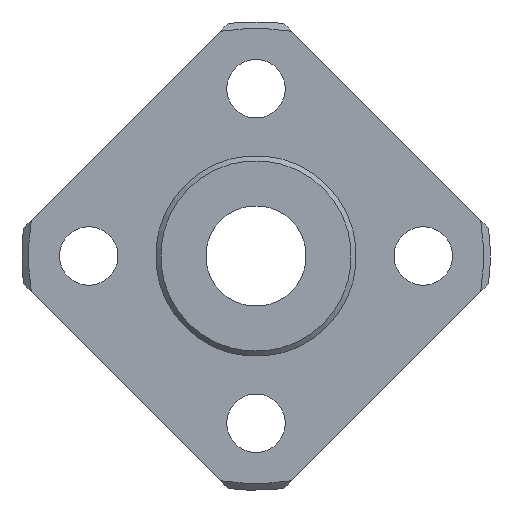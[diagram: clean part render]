
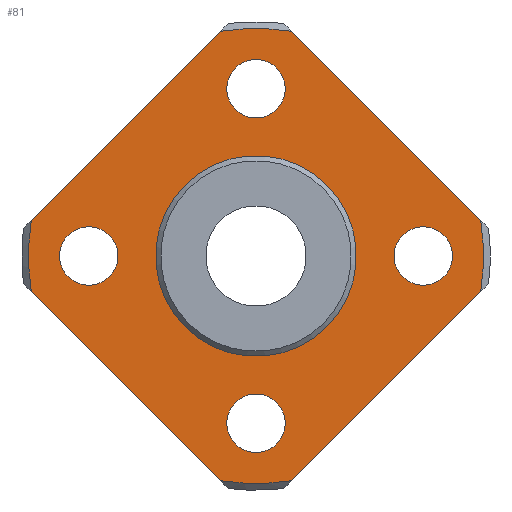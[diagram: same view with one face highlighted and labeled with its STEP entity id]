
A CAD part, left-side view. The second image highlights one B-rep face of the part: STEP entity #81.
In plain terms, the highlighted planar face has unit normal (-1, 0, 0).
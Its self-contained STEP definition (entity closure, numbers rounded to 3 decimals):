
#81=ADVANCED_FACE('',(#129,#130,#131,#132,#133,#134),#135,.T.);
#129=FACE_BOUND('',#244,.T.);
#130=FACE_BOUND('',#245,.T.);
#131=FACE_BOUND('',#246,.T.);
#132=FACE_BOUND('',#247,.T.);
#133=FACE_BOUND('',#248,.T.);
#134=FACE_OUTER_BOUND('',#249,.T.);
#135=PLANE('',#250);
#244=EDGE_LOOP('',(#397));
#245=EDGE_LOOP('',(#398));
#246=EDGE_LOOP('',(#399));
#247=EDGE_LOOP('',(#400));
#248=EDGE_LOOP('',(#401));
#249=EDGE_LOOP('',(#402,#403,#404,#405,#406,#407,#408,#409));
#250=AXIS2_PLACEMENT_3D('',#410,#411,#412);
#397=ORIENTED_EDGE('',*,*,#650,.T.);
#398=ORIENTED_EDGE('',*,*,#651,.T.);
#399=ORIENTED_EDGE('',*,*,#652,.T.);
#400=ORIENTED_EDGE('',*,*,#653,.T.);
#401=ORIENTED_EDGE('',*,*,#654,.T.);
#402=ORIENTED_EDGE('',*,*,#655,.F.);
#403=ORIENTED_EDGE('',*,*,#656,.T.);
#404=ORIENTED_EDGE('',*,*,#647,.F.);
#405=ORIENTED_EDGE('',*,*,#638,.T.);
#406=ORIENTED_EDGE('',*,*,#641,.F.);
#407=ORIENTED_EDGE('',*,*,#657,.T.);
#408=ORIENTED_EDGE('',*,*,#644,.F.);
#409=ORIENTED_EDGE('',*,*,#627,.T.);
#410=CARTESIAN_POINT('',(-5.0,6.841,6.841));
#411=DIRECTION('',(-1.0,0.0,0.));
#412=DIRECTION('',(0.,-0.707,0.707));
#627=EDGE_CURVE('',#709,#707,#710,.T.);
#638=EDGE_CURVE('',#730,#728,#731,.T.);
#641=EDGE_CURVE('',#735,#728,#736,.T.);
#644=EDGE_CURVE('',#709,#740,#741,.T.);
#647=EDGE_CURVE('',#730,#745,#746,.T.);
#650=EDGE_CURVE('',#750,#750,#751,.F.);
#651=EDGE_CURVE('',#752,#752,#753,.F.);
#652=EDGE_CURVE('',#754,#754,#755,.T.);
#653=EDGE_CURVE('',#756,#756,#757,.F.);
#654=EDGE_CURVE('',#758,#758,#759,.F.);
#655=EDGE_CURVE('',#760,#707,#761,.T.);
#656=EDGE_CURVE('',#760,#745,#762,.T.);
#657=EDGE_CURVE('',#735,#740,#763,.T.);
#707=VERTEX_POINT('',#851);
#709=VERTEX_POINT('',#856);
#710=LINE('',#857,#858);
#728=VERTEX_POINT('',#891);
#730=VERTEX_POINT('',#896);
#731=LINE('',#897,#898);
#735=VERTEX_POINT('',#906);
#736=CIRCLE('',#907,13.6);
#740=VERTEX_POINT('',#914);
#741=CIRCLE('',#915,13.6);
#745=VERTEX_POINT('',#922);
#746=CIRCLE('',#923,13.6);
#750=VERTEX_POINT('',#930);
#751=CIRCLE('',#931,1.75);
#752=VERTEX_POINT('',#932);
#753=CIRCLE('',#933,1.75);
#754=VERTEX_POINT('',#934);
#755=CIRCLE('',#935,5.75);
#756=VERTEX_POINT('',#936);
#757=CIRCLE('',#937,1.75);
#758=VERTEX_POINT('',#938);
#759=CIRCLE('',#939,1.75);
#760=VERTEX_POINT('',#940);
#761=CIRCLE('',#941,13.6);
#762=LINE('',#942,#943);
#763=LINE('',#944,#945);
#851=CARTESIAN_POINT('',(-5.0,-13.433,-2.123));
#856=CARTESIAN_POINT('',(-5.0,-2.123,-13.433));
#857=CARTESIAN_POINT('',(-5.0,-7.778,-7.778));
#858=VECTOR('',#1036,1.0);
#891=CARTESIAN_POINT('',(-5.0,13.433,2.123));
#896=CARTESIAN_POINT('',(-5.0,2.123,13.433));
#897=CARTESIAN_POINT('',(-5.0,7.778,7.778));
#898=VECTOR('',#1046,1.0);
#906=CARTESIAN_POINT('',(-5.0,13.433,-2.123));
#907=AXIS2_PLACEMENT_3D('',#1048,#1049,#1050);
#914=CARTESIAN_POINT('',(-5.0,2.123,-13.433));
#915=AXIS2_PLACEMENT_3D('',#1054,#1055,#1056);
#922=CARTESIAN_POINT('',(-5.0,-2.123,13.433));
#923=AXIS2_PLACEMENT_3D('',#1060,#1061,#1062);
#930=CARTESIAN_POINT('',(-5.0,-1.237,-8.763));
#931=AXIS2_PLACEMENT_3D('',#1066,#1067,#1068);
#932=CARTESIAN_POINT('',(-5.0,-1.237,11.237));
#933=AXIS2_PLACEMENT_3D('',#1069,#1070,#1071);
#934=CARTESIAN_POINT('',(-5.0,4.066,4.066));
#935=AXIS2_PLACEMENT_3D('',#1072,#1073,#1074);
#936=CARTESIAN_POINT('',(-5.0,-11.237,1.237));
#937=AXIS2_PLACEMENT_3D('',#1075,#1076,#1077);
#938=CARTESIAN_POINT('',(-5.0,8.763,1.237));
#939=AXIS2_PLACEMENT_3D('',#1078,#1079,#1080);
#940=CARTESIAN_POINT('',(-5.0,-13.433,2.123));
#941=AXIS2_PLACEMENT_3D('',#1081,#1082,#1083);
#942=CARTESIAN_POINT('',(-5.0,-0.937,14.619));
#943=VECTOR('',#1084,1.0);
#944=CARTESIAN_POINT('',(-5.0,14.619,-0.937));
#945=VECTOR('',#1085,1.0);
#1036=DIRECTION('',(0.,-0.707,0.707));
#1046=DIRECTION('',(0.,0.707,-0.707));
#1048=CARTESIAN_POINT('',(-5.0,0.,0.));
#1049=DIRECTION('',(1.0,0.0,0.));
#1050=DIRECTION('',(0.,0.707,0.707));
#1054=CARTESIAN_POINT('',(-5.0,0.,0.));
#1055=DIRECTION('',(1.0,0.0,0.));
#1056=DIRECTION('',(0.,0.707,0.707));
#1060=CARTESIAN_POINT('',(-5.0,0.,0.));
#1061=DIRECTION('',(1.0,0.0,0.));
#1062=DIRECTION('',(0.,0.707,0.707));
#1066=CARTESIAN_POINT('',(-5.0,0.,-10.0));
#1067=DIRECTION('',(-1.0,0.0,0.));
#1068=DIRECTION('',(0.,-0.707,0.707));
#1069=CARTESIAN_POINT('',(-5.0,0.,10.0));
#1070=DIRECTION('',(-1.0,0.0,0.));
#1071=DIRECTION('',(0.,-0.707,0.707));
#1072=CARTESIAN_POINT('',(-5.0,0.,0.));
#1073=DIRECTION('',(1.0,0.0,0.));
#1074=DIRECTION('',(0.,0.707,0.707));
#1075=CARTESIAN_POINT('',(-5.0,-10.0,0.));
#1076=DIRECTION('',(-1.0,0.0,0.));
#1077=DIRECTION('',(0.,-0.707,0.707));
#1078=CARTESIAN_POINT('',(-5.0,10.0,0.));
#1079=DIRECTION('',(-1.0,0.0,0.));
#1080=DIRECTION('',(0.,-0.707,0.707));
#1081=CARTESIAN_POINT('',(-5.0,0.,0.));
#1082=DIRECTION('',(1.0,0.0,0.));
#1083=DIRECTION('',(0.,0.707,0.707));
#1084=DIRECTION('',(0.,0.707,0.707));
#1085=DIRECTION('',(0.,-0.707,-0.707));
